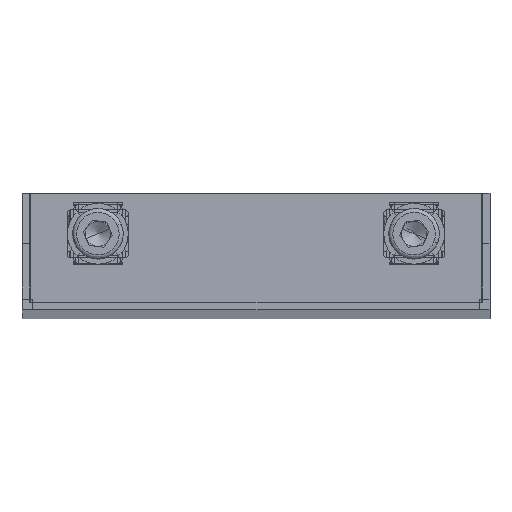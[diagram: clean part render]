
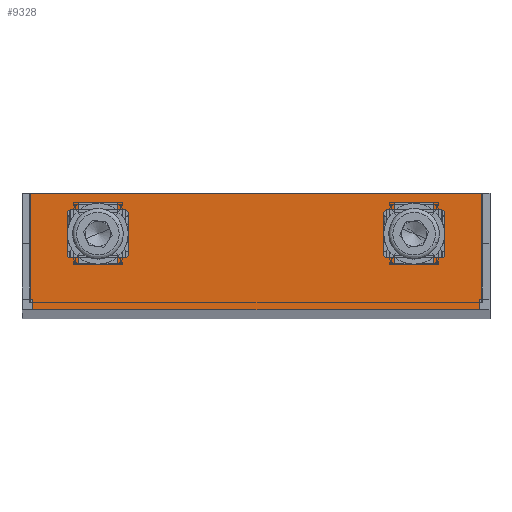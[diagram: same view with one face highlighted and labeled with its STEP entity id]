
A CAD part, top view. The second image highlights one B-rep face of the part: STEP entity #9328.
In plain terms, the highlighted planar face has unit normal (0, 0, 1).
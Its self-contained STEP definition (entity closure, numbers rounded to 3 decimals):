
#8870 = VERTEX_POINT('',#8871);
#8871 = CARTESIAN_POINT('',(-44.15,-1.5,507.));
#8950 = VERTEX_POINT('',#8951);
#8951 = CARTESIAN_POINT('',(44.15,-1.5,507.));
#8957 = EDGE_CURVE('',#8870,#8950,#8958,.T.);
#8958 = LINE('',#8959,#8960);
#8959 = CARTESIAN_POINT('',(-44.75,-1.5,507.));
#8960 = VECTOR('',#8961,1.);
#8961 = DIRECTION('',(1.,0.,0.));
#8974 = VERTEX_POINT('',#8975);
#8975 = CARTESIAN_POINT('',(44.15,0.6,507.));
#8981 = EDGE_CURVE('',#8974,#8950,#8982,.T.);
#8982 = LINE('',#8983,#8984);
#8983 = CARTESIAN_POINT('',(44.15,0.,507.));
#8984 = VECTOR('',#8985,1.);
#8985 = DIRECTION('',(-0.,-1.,-0.));
#9016 = EDGE_CURVE('',#9017,#8870,#9019,.T.);
#9017 = VERTEX_POINT('',#9018);
#9018 = CARTESIAN_POINT('',(-44.15,0.6,507.));
#9019 = LINE('',#9020,#9021);
#9020 = CARTESIAN_POINT('',(-44.15,0.6,507.));
#9021 = VECTOR('',#9022,1.);
#9022 = DIRECTION('',(-0.,-1.,-0.));
#9047 = EDGE_CURVE('',#9048,#9050,#9052,.T.);
#9048 = VERTEX_POINT('',#9049);
#9049 = CARTESIAN_POINT('',(-44.65,0.6,507.));
#9050 = VERTEX_POINT('',#9051);
#9051 = CARTESIAN_POINT('',(-44.65,21.5,507.));
#9052 = LINE('',#9053,#9054);
#9053 = CARTESIAN_POINT('',(-44.65,0.6,507.));
#9054 = VECTOR('',#9055,1.);
#9055 = DIRECTION('',(0.,1.,0.));
#9087 = EDGE_CURVE('',#9088,#9090,#9092,.T.);
#9088 = VERTEX_POINT('',#9089);
#9089 = CARTESIAN_POINT('',(44.65,0.6,507.));
#9090 = VERTEX_POINT('',#9091);
#9091 = CARTESIAN_POINT('',(44.65,21.5,507.));
#9092 = LINE('',#9093,#9094);
#9093 = CARTESIAN_POINT('',(44.65,0.6,507.));
#9094 = VECTOR('',#9095,1.);
#9095 = DIRECTION('',(0.,1.,0.));
#9134 = EDGE_CURVE('',#9090,#9050,#9135,.T.);
#9135 = LINE('',#9136,#9137);
#9136 = CARTESIAN_POINT('',(0.,21.5,507.));
#9137 = VECTOR('',#9138,1.);
#9138 = DIRECTION('',(-1.,0.,0.));
#9315 = EDGE_CURVE('',#9017,#9048,#9316,.T.);
#9316 = LINE('',#9317,#9318);
#9317 = CARTESIAN_POINT('',(-44.15,0.6,507.));
#9318 = VECTOR('',#9319,1.);
#9319 = DIRECTION('',(-1.,0.,0.));
#9328 = ADVANCED_FACE('',(#9329,#9399,#9469),#9484,.F.);
#9329 = FACE_BOUND('',#9330,.T.);
#9330 = EDGE_LOOP('',(#9331,#9341,#9350,#9358,#9367,#9375,#9384,#9392));
#9331 = ORIENTED_EDGE('',*,*,#9332,.F.);
#9332 = EDGE_CURVE('',#9333,#9335,#9337,.T.);
#9333 = VERTEX_POINT('',#9334);
#9334 = CARTESIAN_POINT('',(-36.75,8.75,507.));
#9335 = VERTEX_POINT('',#9336);
#9336 = CARTESIAN_POINT('',(-25.75,8.75,507.));
#9337 = LINE('',#9338,#9339);
#9338 = CARTESIAN_POINT('',(-27.,8.75,507.));
#9339 = VECTOR('',#9340,1.);
#9340 = DIRECTION('',(1.,-0.,-0.));
#9341 = ORIENTED_EDGE('',*,*,#9342,.F.);
#9342 = EDGE_CURVE('',#9343,#9333,#9345,.T.);
#9343 = VERTEX_POINT('',#9344);
#9344 = CARTESIAN_POINT('',(-37.25,9.25,507.));
#9345 = CIRCLE('',#9346,0.5);
#9346 = AXIS2_PLACEMENT_3D('',#9347,#9348,#9349);
#9347 = CARTESIAN_POINT('',(-36.75,9.25,507.));
#9348 = DIRECTION('',(0.,0.,1.));
#9349 = DIRECTION('',(-1.,0.,0.));
#9350 = ORIENTED_EDGE('',*,*,#9351,.F.);
#9351 = EDGE_CURVE('',#9352,#9343,#9354,.T.);
#9352 = VERTEX_POINT('',#9353);
#9353 = CARTESIAN_POINT('',(-37.25,17.75,507.));
#9354 = LINE('',#9355,#9356);
#9355 = CARTESIAN_POINT('',(-37.25,9.25,507.));
#9356 = VECTOR('',#9357,1.);
#9357 = DIRECTION('',(0.,-1.,-0.));
#9358 = ORIENTED_EDGE('',*,*,#9359,.F.);
#9359 = EDGE_CURVE('',#9360,#9352,#9362,.T.);
#9360 = VERTEX_POINT('',#9361);
#9361 = CARTESIAN_POINT('',(-36.75,18.25,507.));
#9362 = CIRCLE('',#9363,0.5);
#9363 = AXIS2_PLACEMENT_3D('',#9364,#9365,#9366);
#9364 = CARTESIAN_POINT('',(-36.75,17.75,507.));
#9365 = DIRECTION('',(0.,0.,1.));
#9366 = DIRECTION('',(-1.,0.,0.));
#9367 = ORIENTED_EDGE('',*,*,#9368,.F.);
#9368 = EDGE_CURVE('',#9369,#9360,#9371,.T.);
#9369 = VERTEX_POINT('',#9370);
#9370 = CARTESIAN_POINT('',(-25.75,18.25,507.));
#9371 = LINE('',#9372,#9373);
#9372 = CARTESIAN_POINT('',(-27.,18.25,507.));
#9373 = VECTOR('',#9374,1.);
#9374 = DIRECTION('',(-1.,0.,0.));
#9375 = ORIENTED_EDGE('',*,*,#9376,.F.);
#9376 = EDGE_CURVE('',#9377,#9369,#9379,.T.);
#9377 = VERTEX_POINT('',#9378);
#9378 = CARTESIAN_POINT('',(-25.25,17.75,507.));
#9379 = CIRCLE('',#9380,0.5);
#9380 = AXIS2_PLACEMENT_3D('',#9381,#9382,#9383);
#9381 = CARTESIAN_POINT('',(-25.75,17.75,507.));
#9382 = DIRECTION('',(0.,0.,1.));
#9383 = DIRECTION('',(-1.,0.,0.));
#9384 = ORIENTED_EDGE('',*,*,#9385,.F.);
#9385 = EDGE_CURVE('',#9386,#9377,#9388,.T.);
#9386 = VERTEX_POINT('',#9387);
#9387 = CARTESIAN_POINT('',(-25.25,9.25,507.));
#9388 = LINE('',#9389,#9390);
#9389 = CARTESIAN_POINT('',(-25.25,17.75,507.));
#9390 = VECTOR('',#9391,1.);
#9391 = DIRECTION('',(0.,1.,-0.));
#9392 = ORIENTED_EDGE('',*,*,#9393,.F.);
#9393 = EDGE_CURVE('',#9335,#9386,#9394,.T.);
#9394 = CIRCLE('',#9395,0.5);
#9395 = AXIS2_PLACEMENT_3D('',#9396,#9397,#9398);
#9396 = CARTESIAN_POINT('',(-25.75,9.25,507.));
#9397 = DIRECTION('',(0.,0.,1.));
#9398 = DIRECTION('',(-1.,0.,0.));
#9399 = FACE_BOUND('',#9400,.T.);
#9400 = EDGE_LOOP('',(#9401,#9411,#9420,#9428,#9437,#9445,#9454,#9462));
#9401 = ORIENTED_EDGE('',*,*,#9402,.F.);
#9402 = EDGE_CURVE('',#9403,#9405,#9407,.T.);
#9403 = VERTEX_POINT('',#9404);
#9404 = CARTESIAN_POINT('',(25.75,8.75,507.));
#9405 = VERTEX_POINT('',#9406);
#9406 = CARTESIAN_POINT('',(36.75,8.75,507.));
#9407 = LINE('',#9408,#9409);
#9408 = CARTESIAN_POINT('',(27.,8.75,507.));
#9409 = VECTOR('',#9410,1.);
#9410 = DIRECTION('',(1.,0.,0.));
#9411 = ORIENTED_EDGE('',*,*,#9412,.F.);
#9412 = EDGE_CURVE('',#9413,#9403,#9415,.T.);
#9413 = VERTEX_POINT('',#9414);
#9414 = CARTESIAN_POINT('',(25.25,9.25,507.));
#9415 = CIRCLE('',#9416,0.5);
#9416 = AXIS2_PLACEMENT_3D('',#9417,#9418,#9419);
#9417 = CARTESIAN_POINT('',(25.75,9.25,507.));
#9418 = DIRECTION('',(0.,0.,1.));
#9419 = DIRECTION('',(1.,0.,-0.));
#9420 = ORIENTED_EDGE('',*,*,#9421,.F.);
#9421 = EDGE_CURVE('',#9422,#9413,#9424,.T.);
#9422 = VERTEX_POINT('',#9423);
#9423 = CARTESIAN_POINT('',(25.25,17.75,507.));
#9424 = LINE('',#9425,#9426);
#9425 = CARTESIAN_POINT('',(25.25,17.75,507.));
#9426 = VECTOR('',#9427,1.);
#9427 = DIRECTION('',(0.,-1.,0.));
#9428 = ORIENTED_EDGE('',*,*,#9429,.F.);
#9429 = EDGE_CURVE('',#9430,#9422,#9432,.T.);
#9430 = VERTEX_POINT('',#9431);
#9431 = CARTESIAN_POINT('',(25.75,18.25,507.));
#9432 = CIRCLE('',#9433,0.5);
#9433 = AXIS2_PLACEMENT_3D('',#9434,#9435,#9436);
#9434 = CARTESIAN_POINT('',(25.75,17.75,507.));
#9435 = DIRECTION('',(0.,0.,1.));
#9436 = DIRECTION('',(1.,0.,-0.));
#9437 = ORIENTED_EDGE('',*,*,#9438,.F.);
#9438 = EDGE_CURVE('',#9439,#9430,#9441,.T.);
#9439 = VERTEX_POINT('',#9440);
#9440 = CARTESIAN_POINT('',(36.75,18.25,507.));
#9441 = LINE('',#9442,#9443);
#9442 = CARTESIAN_POINT('',(27.,18.25,507.));
#9443 = VECTOR('',#9444,1.);
#9444 = DIRECTION('',(-1.,0.,-0.));
#9445 = ORIENTED_EDGE('',*,*,#9446,.F.);
#9446 = EDGE_CURVE('',#9447,#9439,#9449,.T.);
#9447 = VERTEX_POINT('',#9448);
#9448 = CARTESIAN_POINT('',(37.25,17.75,507.));
#9449 = CIRCLE('',#9450,0.5);
#9450 = AXIS2_PLACEMENT_3D('',#9451,#9452,#9453);
#9451 = CARTESIAN_POINT('',(36.75,17.75,507.));
#9452 = DIRECTION('',(0.,0.,1.));
#9453 = DIRECTION('',(1.,0.,-0.));
#9454 = ORIENTED_EDGE('',*,*,#9455,.F.);
#9455 = EDGE_CURVE('',#9456,#9447,#9458,.T.);
#9456 = VERTEX_POINT('',#9457);
#9457 = CARTESIAN_POINT('',(37.25,9.25,507.));
#9458 = LINE('',#9459,#9460);
#9459 = CARTESIAN_POINT('',(37.25,9.25,507.));
#9460 = VECTOR('',#9461,1.);
#9461 = DIRECTION('',(0.,1.,0.));
#9462 = ORIENTED_EDGE('',*,*,#9463,.F.);
#9463 = EDGE_CURVE('',#9405,#9456,#9464,.T.);
#9464 = CIRCLE('',#9465,0.5);
#9465 = AXIS2_PLACEMENT_3D('',#9466,#9467,#9468);
#9466 = CARTESIAN_POINT('',(36.75,9.25,507.));
#9467 = DIRECTION('',(0.,0.,1.));
#9468 = DIRECTION('',(1.,0.,-0.));
#9469 = FACE_BOUND('',#9470,.T.);
#9470 = EDGE_LOOP('',(#9471,#9472,#9473,#9474,#9475,#9481,#9482,#9483));
#9471 = ORIENTED_EDGE('',*,*,#9315,.F.);
#9472 = ORIENTED_EDGE('',*,*,#9016,.T.);
#9473 = ORIENTED_EDGE('',*,*,#8957,.T.);
#9474 = ORIENTED_EDGE('',*,*,#8981,.F.);
#9475 = ORIENTED_EDGE('',*,*,#9476,.T.);
#9476 = EDGE_CURVE('',#8974,#9088,#9477,.T.);
#9477 = LINE('',#9478,#9479);
#9478 = CARTESIAN_POINT('',(44.15,0.6,507.));
#9479 = VECTOR('',#9480,1.);
#9480 = DIRECTION('',(1.,0.,0.));
#9481 = ORIENTED_EDGE('',*,*,#9087,.T.);
#9482 = ORIENTED_EDGE('',*,*,#9134,.T.);
#9483 = ORIENTED_EDGE('',*,*,#9047,.F.);
#9484 = PLANE('',#9485);
#9485 = AXIS2_PLACEMENT_3D('',#9486,#9487,#9488);
#9486 = CARTESIAN_POINT('',(0.,0.,507.));
#9487 = DIRECTION('',(0.,0.,-1.));
#9488 = DIRECTION('',(-1.,0.,0.));
